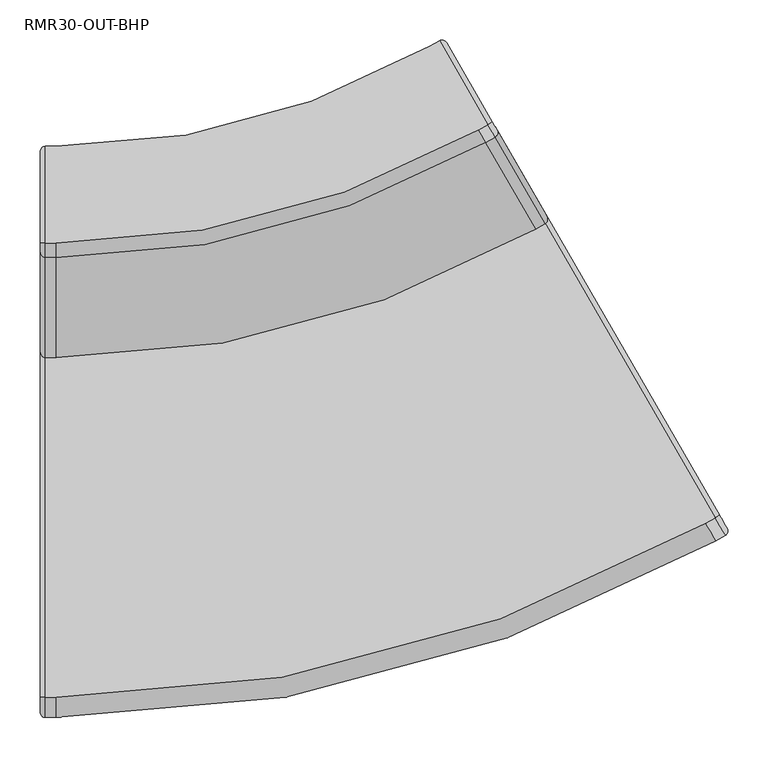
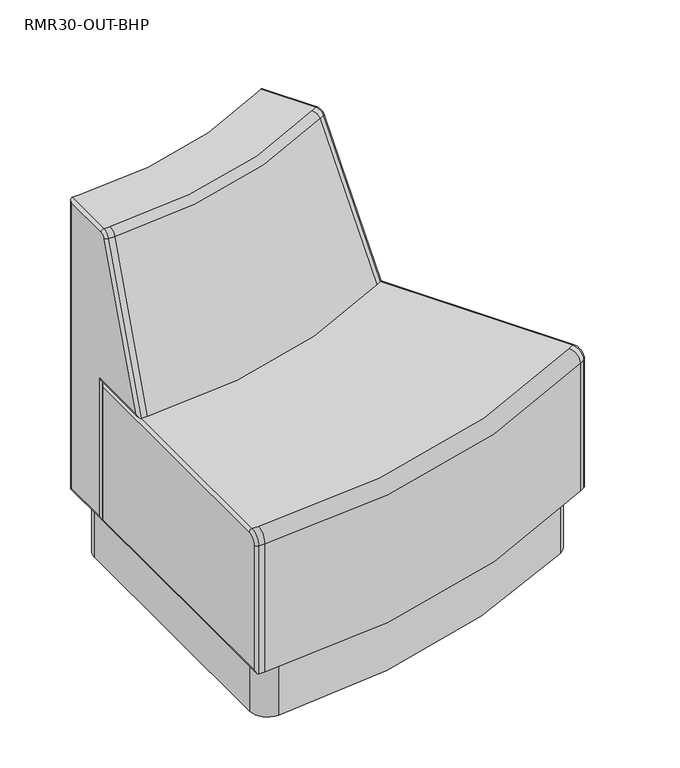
"""IFC4 building model written with IfcOpenShell, lengths in millimetres: furniture geometry, Stance_HC-Rosetta-30_Curve_Outside_Plinth_Base : RMR30-OUT-BHP."""

from ifc_helpers import new_model, si_unit, point, frame, frame_2d, origin, origin_with_axes, place, context, project, spatial, polyline, circle_curve, ellipse_curve, trimmed, segment, composite_curve, outline, extrude, source, transform, mapped, element, save
from ifc_brep_helpers import plane_surface, cylinder_surface, revolved_surface, advanced_brep


def rmr30_out_bhp_222f223d(model_context):
    return source(origin(), model_context, "Body", "SolidModel", [
        extrude(outline(composite_curve([segment(trimmed(circle_curve(frame_2d((480.3004625, 53.5261901)), 39.6875), [point((461.850962, 88.6646816))], [point((514.6708457, 73.3699401))], False, "CARTESIAN"), True, "CONTINUOUS"), segment(polyline([(514.6708457, 73.3699401), (810.5072872, -439.0338073)]), True, "CONTINUOUS"), segment(trimmed(circle_curve(frame_2d((776.136904, -458.8775573)), 39.6875), [point((810.5072872, -439.0338073))], [point((795.1116432, -493.735224))], False, "CARTESIAN"), True, "CONTINUOUS"), segment(trimmed(circle_curve(frame_2d((20.225, 929.7752664)), 1620.7502664), [point((795.1116432, -493.735224))], [point((60.9087272, -690.4643024))], False, "CARTESIAN"), True, "CONTINUOUS"), segment(trimmed(circle_curve(frame_2d((59.9125, -650.7893079)), 39.6875), [point((60.9087272, -690.4643024))], [point((20.225, -650.7893079))], False, "CARTESIAN"), True, "CONTINUOUS"), segment(polyline([(20.225, -650.7893079), (20.225, -59.116425)]), True, "CONTINUOUS"), segment(trimmed(circle_curve(frame_2d((59.9125, -59.116425)), 39.6875), [point((20.225, -59.116425))], [point((58.3209903, -19.4608484))], False, "CARTESIAN"), True, "CONTINUOUS"), segment(trimmed(circle_curve(frame_2d((20.225, 929.7752664)), 950.0002664), [point((58.3209903, -19.4608484))], [point((461.850962, 88.6646816))], True, "CARTESIAN"), True, "CONTINUOUS")], self_intersect=False)), frame((0.0, 0.0, 6.3627), z_axis=(0.0, 0.0, 1.0), x_axis=(1.0, 0.0, 0.0)), (0.0, 0.0, 1.0), 128.51892),
        advanced_brep(
        [(545.4376332, 20.0803009, 457.2), (20.225, -120.65, 457.2), (6.35, -120.65, 457.2), (6.35, -685.7999758, 457.2), (20.225, -685.7999758, 457.2), (828.0126211, -469.3539351, 457.2), (840.0287236, -462.4164351, 457.2), (557.4537357, 27.0178009, 457.2), (545.4376332, 20.0803009, 134.88162), (20.225, -120.65, 134.88162), (557.4537357, 27.0178009, 134.88162), (852.7287236, -484.4134803, 134.88162), (840.7126211, -491.3509803, 134.88162), (20.225, -711.1999758, 134.88162), (6.35, -711.1999758, 134.88162), (6.35, -120.65, 134.88162), (840.7126211, -491.3509803, 431.8), (20.225, -711.1999758, 431.8), (6.35, -711.1999758, 431.8), (0.0, -704.8499758, 431.8), (0.0, -704.8499758, 141.23162), (0.0, -685.7999758, 450.85), (0.0, -127.0, 450.85), (0.0, -127.0, 141.23162), (855.0529849, -475.739219, 431.8), (845.5279849, -459.2414351, 450.85), (852.7287236, -484.4134803, 431.8), (855.0529849, -475.739219, 141.23162), (566.127997, 24.6935396, 141.23162), (566.127997, 24.6935396, 450.85)],
        [
            (0, 1, circle_curve(frame((20.225, 929.7752664, 457.2), z_axis=(0.0, 0.0, -1.0), x_axis=(0.0, -1.0, 0.0)), 1050.4252664)),
            (1, 2),
            (2, 3),
            (3, 4),
            (4, 5, circle_curve(frame((20.225, 929.7752664, 457.2), z_axis=(0.0, 0.0, 1.0), x_axis=(0.0, -1.0, 0.0)), 1615.5752422)),
            (5, 6),
            (6, 7),
            (7, 0),
            (0, 8),
            (8, 9, circle_curve(frame((20.225, 929.7752664, 134.88162), z_axis=(0.0, 0.0, -1.0), x_axis=(0.0, -1.0, 0.0)), 1050.4252664)),
            (9, 1),
            (8, 10),
            (10, 11),
            (11, 12),
            (12, 13, circle_curve(frame((20.225, 929.7752664, 134.88162), z_axis=(0.0, 0.0, -1.0), x_axis=(0.0, -1.0, 0.0)), 1640.9752422)),
            (13, 14),
            (14, 15),
            (15, 9),
            (12, 16),
            (16, 17, circle_curve(frame((20.225, 929.7752664, 431.8), z_axis=(0.0, 0.0, -1.0), x_axis=(0.0, -1.0, 0.0)), 1640.9752422)),
            (17, 13),
            (4, 17, circle_curve(frame((20.225, -685.7999758, 431.8), z_axis=(1.0, 0.0, 0.0), x_axis=(0.0, 1.0, 0.0)), 25.4)),
            (16, 5, circle_curve(frame((828.0126211, -469.3539351, 431.8), z_axis=(-0.8660254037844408, -0.49999999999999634, 0.0), x_axis=(-0.49999999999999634, 0.8660254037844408, 0.0)), 25.4)),
            (17, 18),
            (18, 14),
            (18, 19, circle_curve(frame((6.35, -704.8499758, 431.8), z_axis=(0.0, 0.0, -1.0), x_axis=(0.0, -1.0, 0.0)), 6.35)),
            (19, 20),
            (20, 14, ellipse_curve(frame((6.35, -704.8499758, 141.23162), z_axis=(0.0, -0.7071067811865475, 0.7071067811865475), x_axis=(0.0, -0.7071067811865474, -0.7071067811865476)), 8.9802561, 6.35)),
            (3, 18, circle_curve(frame((6.35, -685.7999758, 431.8), z_axis=(1.0, 0.0, 0.0), x_axis=(0.0, -1.0, 0.0)), 25.4)),
            (3, 21, circle_curve(frame((6.35, -685.7999758, 450.85), z_axis=(0.0, -1.0, 0.0), x_axis=(0.0, 0.0, 1.0)), 6.35)),
            (21, 19, circle_curve(frame((0.0, -685.7999758, 431.8), z_axis=(1.0, 0.0, 0.0), x_axis=(0.0, -1.0, 0.0)), 19.05)),
            (2, 22, ellipse_curve(frame((6.35, -127.0, 450.85), z_axis=(0.0, -0.7071067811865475, 0.7071067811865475), x_axis=(0.0, -0.7071067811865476, -0.7071067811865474)), 8.9802561, 6.35)),
            (22, 21),
            (15, 2),
            (15, 23, ellipse_curve(frame((6.35, -127.0, 141.23162), z_axis=(0.0, 0.7071067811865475, 0.7071067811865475), x_axis=(0.0, -0.7071067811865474, 0.7071067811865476)), 8.9802561, 6.35)),
            (23, 22),
            (20, 23),
            (24, 25, circle_curve(frame((845.5279849, -459.2414351, 431.8), z_axis=(-0.8660254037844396, -0.49999999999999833, 0.0), x_axis=(0.0, 0.0, 1.0)), 19.05)),
            (25, 6, circle_curve(frame((840.0287236, -462.4164351, 450.85), z_axis=(0.4999999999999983, -0.8660254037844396, 0.0), x_axis=(0.0, 0.0, 1.0)), 6.35)),
            (6, 26, circle_curve(frame((840.0287236, -462.4164351, 431.8), z_axis=(0.8660254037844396, 0.49999999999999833, 0.0), x_axis=(0.0, 0.0, 1.0)), 25.4)),
            (26, 24, circle_curve(frame((849.5537236, -478.914219, 431.8), z_axis=(0.0, 0.0, 1.0), x_axis=(0.4999999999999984, -0.8660254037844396, 0.0)), 6.35)),
            (16, 26),
            (26, 11),
            (11, 27, ellipse_curve(frame((849.5537236, -478.914219, 141.23162), z_axis=(0.3535533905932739, -0.6123724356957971, 0.707106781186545), x_axis=(-0.3535533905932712, 0.6123724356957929, 0.7071067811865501)), 8.9802561, 6.35)),
            (27, 24),
            (10, 28, ellipse_curve(frame((560.6287357, 21.5185396, 141.23162), z_axis=(0.3535533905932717, -0.6123724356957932, -0.7071067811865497), x_axis=(0.3535533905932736, -0.6123724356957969, 0.7071067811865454)), 8.9802561, 6.35)),
            (28, 27),
            (10, 7),
            (7, 29, ellipse_curve(frame((560.6287357, 21.5185396, 450.85), z_axis=(-0.3535533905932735, 0.6123724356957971, -0.7071067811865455), x_axis=(0.3535533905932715, -0.6123724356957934, -0.7071067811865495)), 8.9802561, 6.35)),
            (29, 28),
            (25, 29),
        ],
        [
            plane_surface(frame((20.225, 929.7752664, 457.2), z_axis=(0.0, 0.0, 1.0), x_axis=(0.0, -1.0, 0.0))),
            revolved_surface(polyline([(20.225, -120.65000000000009, 457.2), (20.225, -120.65000000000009, 134.88162)]), (20.225, 929.7752664, 618.9648354), (0.0, 0.0, 1.0)),
            plane_surface(frame((20.225, 929.7752664, 134.88162), z_axis=(0.0, 0.0, -1.0), x_axis=(0.0, -1.0, 0.0))),
            cylinder_surface(frame((20.225, 929.7752664, 618.9648354), z_axis=(0.0, 0.0, 1.0), x_axis=(0.0, -1.0, 0.0)), 1640.9752422),
            revolved_surface(trimmed(ellipse_curve(frame((20.225, -685.7999758, 431.8), z_axis=(-1.0, 0.0, 0.0), x_axis=(0.0, 1.0, 0.0)), 25.4, 25.4), [point((20.225, -711.1999758, 431.8))], [point((20.225, -685.7999758, 457.2))], True, "CARTESIAN"), (20.225, 929.7752664, 618.9648354), (0.0, 0.0, 1.0)),
            plane_surface(frame((20.225, -711.1999758, 134.88162), z_axis=(0.0, -1.0, 0.0), x_axis=(0.0, 0.0, 1.0))),
            cylinder_surface(frame((6.35, -704.8499758, 134.88162), z_axis=(0.0, 0.0, -1.0), x_axis=(0.0, -1.0, 0.0)), 6.35),
            cylinder_surface(frame((0.0, -685.7999758, 431.8), z_axis=(-1.0, 0.0, 0.0), x_axis=(0.0, -1.0, 0.0)), 25.4),
            revolved_surface(trimmed(ellipse_curve(frame((6.35, -704.8499758, 431.8), z_axis=(0.0, 0.0, -1.0), x_axis=(0.0, -1.0, 0.0)), 6.35, 6.35), [point((6.35, -711.1999758, 431.8))], [point((0.0, -704.8499758, 431.8))], True, "CARTESIAN"), (0.0, -685.7999758, 431.8), (-1.0, 0.0, 0.0)),
            cylinder_surface(frame((6.35, -685.7999758, 450.85), z_axis=(0.0, -1.0, 0.0), x_axis=(0.0, 0.0, 1.0)), 6.35),
            plane_surface(frame((20.225, -120.65, 457.2), z_axis=(0.0, 1.0, 0.0), x_axis=(0.0, 0.0, -1.0))),
            cylinder_surface(frame((6.35, -127.0, 457.2), z_axis=(0.0, 0.0, 1.0), x_axis=(0.0, 1.0, 0.0)), 6.35),
            cylinder_surface(frame((6.35, -120.65, 141.23162), z_axis=(0.0, 1.0, 0.0), x_axis=(0.0, 0.0, -1.0)), 6.35),
            plane_surface(frame((0.0, -127.0, 141.23162), z_axis=(-1.0, 0.0, 0.0), x_axis=(0.0, -1.0, 0.0))),
            revolved_surface(trimmed(ellipse_curve(frame((840.0287236, -462.4164351, 450.85), z_axis=(-0.4999999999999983, 0.8660254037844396, 0.0), x_axis=(0.0, 0.0, 1.0)), 6.35, 6.35), [point((840.0287236, -462.4164351, 457.2))], [point((845.5279849, -459.2414351, 450.85))], True, "CARTESIAN"), (827.9990894, -469.3617476, 431.8), (0.8660254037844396, 0.49999999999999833, 0.0)),
            cylinder_surface(frame((827.9990894, -469.3617476, 431.8), z_axis=(0.8660254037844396, 0.49999999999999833, 0.0), x_axis=(0.0, 0.0, 1.0)), 25.4),
            cylinder_surface(frame((849.5537236, -478.914219, 431.8), z_axis=(0.0, 0.0, 1.0000000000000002), x_axis=(0.4999999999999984, -0.8660254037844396, 0.0)), 6.35),
            plane_surface(frame((840.7126211, -491.3509803, 431.8), z_axis=(0.4999999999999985, -0.8660254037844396, 0.0), x_axis=(0.0, 0.0, -1.0))),
            cylinder_surface(frame((852.7287236, -484.4134803, 141.23162), z_axis=(0.4999999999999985, -0.8660254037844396, 0.0), x_axis=(0.0, 0.0, -1.0)), 6.35),
            cylinder_surface(frame((560.6287357, 21.5185396, 134.88162), z_axis=(0.0, 0.0, -1.0), x_axis=(-0.4999999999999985, 0.8660254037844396, 0.0)), 6.35),
            plane_surface(frame((545.4376332, 20.0803009, 134.88162), z_axis=(-0.49999999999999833, 0.8660254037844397, 0.0), x_axis=(0.0, 0.0, 1.0))),
            cylinder_surface(frame((557.4537357, 27.0178009, 450.85), z_axis=(-0.4999999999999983, 0.8660254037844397, 0.0), x_axis=(0.0, 0.0, 1.0)), 6.35),
            plane_surface(frame((566.127997, 24.6935396, 450.85), z_axis=(0.8660254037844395, 0.4999999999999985, 0.0), x_axis=(0.4999999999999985, -0.8660254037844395, 0.0))),
        ],
        [
            (0, [[1, 2, 3, 4, 5, 6, 7, 8]]),
            (1, [[-1, 9, 10, 11]]),
            (2, [[-10, 12, 13, 14, 15, 16, 17, 18]]),
            (3, [[-15, 19, 20, 21]]),
            (4, [[-5, 22, -20, 23]]),
            (5, [[-16, -21, 24, 25]]),
            (6, [[-25, 26, 27, 28]]),
            (7, [[-24, -22, -4, 29]]),
            (8, [[-26, -29, 30, 31]]),
            (9, [[-30, -3, 32, 33]]),
            (10, [[-2, -11, -18, 34]]),
            (11, [[-32, -34, 35, 36]]),
            (12, [[-28, 37, -35, -17]]),
            (13, [[-27, -31, -33, -36, -37]]),
            (14, [[38, 39, 40, 41]]),
            (15, [[-40, -6, -23, 42]]),
            (16, [[-41, 43, 44, 45]]),
            (17, [[-42, -19, -14, -43]]),
            (18, [[-44, -13, 46, 47]]),
            (19, [[-46, 48, 49, 50]]),
            (20, [[-12, -9, -8, -48]]),
            (21, [[-39, 51, -49, -7]]),
            (22, [[-38, -45, -47, -50, -51]]),
        ],
    ),
        advanced_brep(
        [(545.4376332, 20.0803009, 134.88162), (20.225, -120.65, 134.88162), (6.35, -120.65, 134.88162), (6.35, 0.0, 134.88162), (20.225, 0.0, 134.88162), (485.1126332, 124.5662659, 134.88162), (497.1287357, 131.5037659, 134.88162), (557.4537357, 27.0178009, 134.88162), (545.4376332, 20.0803009, 457.2), (20.225, -120.65, 457.2), (557.4537357, 27.0178009, 457.2), (628.7003368, -96.384932, 457.2), (616.6842343, -103.322432, 457.2), (20.225, -263.1432022, 457.2), (6.35, -263.1432022, 457.2), (6.35, -120.65, 457.2), (554.2514221, 4.8143708, 800.2654837), (20.225, -138.2775777, 800.2654837), (545.3008498, 20.3172166, 812.8), (20.225, -120.3764333, 812.8), (557.3169523, 27.2547166, 812.8), (497.1287357, 131.5037659, 812.8), (485.1126332, 124.5662659, 812.8), (20.225, 0.0, 812.8), (6.35, 0.0, 812.8), (6.35, -120.3764333, 812.8), (0.0, -6.35, 141.23162), (0.0, -6.35, 806.45), (0.0, -114.3, 141.23162), (0.0, -114.3, 463.55), (0.0, -254.0744624, 463.55), (6.35, -138.2775777, 800.2654837), (0.0, -132.3105296, 798.0936558), (0.0, -120.3764333, 806.45), (568.7832618, 20.0944861, 798.0936558), (562.8162136, 30.4297166, 806.45), (566.2675245, 11.7518708, 800.2654837), (629.6652282, -85.356173, 463.55), (559.777997, 35.6920622, 463.55), (559.777997, 35.6920622, 141.23162), (505.802997, 129.1795046, 141.23162), (505.802997, 129.1795046, 806.45)],
        [
            (0, 1, circle_curve(frame((20.225, 929.7752664, 134.88162), z_axis=(0.0, 0.0, -1.0), x_axis=(0.0, -1.0, 0.0)), 1050.4252664)),
            (1, 2),
            (2, 3),
            (3, 4),
            (4, 5, circle_curve(frame((20.225, 929.7752664, 134.88162), z_axis=(0.0, 0.0, 1.0), x_axis=(0.0, -1.0, 0.0)), 929.7752664)),
            (5, 6),
            (6, 7),
            (7, 0),
            (0, 8),
            (8, 9, circle_curve(frame((20.225, 929.7752664, 457.2), z_axis=(0.0, 0.0, -1.0), x_axis=(0.0, -1.0, 0.0)), 1050.4252664)),
            (9, 1),
            (8, 10),
            (10, 11),
            (11, 12),
            (12, 13, circle_curve(frame((20.225, 929.7752664, 457.2), z_axis=(0.0, 0.0, -1.0), x_axis=(0.0, -1.0, 0.0)), 1192.9184686)),
            (13, 14),
            (14, 15),
            (15, 9),
            (12, 16),
            (16, 17, circle_curve(frame((20.225, 929.7752664, 800.2654837), z_axis=(0.0, 0.0, -1.0), x_axis=(0.0, -1.0, 0.0)), 1068.0528441)),
            (17, 13),
            (16, 18, circle_curve(frame((545.3008498, 20.3172166, 793.75), z_axis=(-0.8660254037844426, -0.4999999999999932, 0.0), x_axis=(-0.4999999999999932, 0.8660254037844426, 0.0)), 19.05)),
            (18, 19, circle_curve(frame((20.225, 929.7752664, 812.8), z_axis=(0.0, 0.0, -1.0), x_axis=(0.0, -1.0, 0.0)), 1050.1516997)),
            (19, 17, circle_curve(frame((20.225, -120.3764333, 793.75), z_axis=(1.0, 0.0, 0.0), x_axis=(0.0, 1.0, 0.0)), 19.05)),
            (18, 20),
            (20, 21),
            (21, 22),
            (22, 23, circle_curve(frame((20.225, 929.7752664, 812.8), z_axis=(0.0, 0.0, -1.0), x_axis=(0.0, -1.0, 0.0)), 929.7752664)),
            (23, 24),
            (24, 25),
            (25, 19),
            (4, 23),
            (22, 5),
            (3, 24),
            (3, 26, ellipse_curve(frame((6.35, -6.35, 141.23162), z_axis=(0.0, 0.707106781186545, 0.70710678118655), x_axis=(0.0, -0.70710678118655, 0.707106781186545)), 8.9802561, 6.35)),
            (26, 27),
            (27, 24, ellipse_curve(frame((6.35, -6.35, 806.45), z_axis=(0.0, 0.70710678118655, -0.7071067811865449), x_axis=(0.0, 0.7071067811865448, 0.7071067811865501)), 8.9802561, 6.35)),
            (2, 28, ellipse_curve(frame((6.35, -114.3, 141.23162), z_axis=(0.0, 0.70710678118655, -0.7071067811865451), x_axis=(0.0, 0.7071067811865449, 0.7071067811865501)), 8.9802561, 6.35)),
            (28, 26),
            (15, 2),
            (15, 29, ellipse_curve(frame((6.35, -114.3, 463.55), z_axis=(0.0, 0.70710678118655, -0.7071067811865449), x_axis=(0.0, -0.7071067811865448, -0.7071067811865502)), 8.9802561, 6.35)),
            (29, 28),
            (14, 30, ellipse_curve(frame((6.35, -254.0744624, 463.55), z_axis=(0.0, 0.5735764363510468, -0.8191520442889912), x_axis=(0.0, 0.8191520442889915, 0.5735764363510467)), 11.0708872, 6.35)),
            (30, 29),
            (17, 31),
            (31, 14),
            (31, 32, circle_curve(frame((6.35, -132.3105296, 798.0936558), z_axis=(0.0, -0.34202014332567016, -0.939692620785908), x_axis=(0.0, -0.939692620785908, 0.34202014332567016)), 6.35)),
            (32, 30),
            (25, 31, circle_curve(frame((6.35, -120.3764333, 793.75), z_axis=(1.0, 0.0, 0.0), x_axis=(0.0, -0.9396926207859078, 0.34202014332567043)), 19.05)),
            (25, 33, circle_curve(frame((6.35, -120.3764333, 806.45), z_axis=(0.0, -1.0, 0.0), x_axis=(0.0, 0.0, 1.0)), 6.35)),
            (33, 32, circle_curve(frame((0.0, -120.3764333, 793.75), z_axis=(1.0, 0.0, 0.0), x_axis=(0.0, -0.9396926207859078, 0.34202014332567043)), 12.7)),
            (27, 33),
            (34, 35, circle_curve(frame((562.8162136, 30.4297166, 793.75), z_axis=(-0.8660254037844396, -0.49999999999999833, 0.0), x_axis=(0.0, 0.0, 1.0)), 12.7)),
            (35, 20, circle_curve(frame((557.3169523, 27.2547166, 806.45), z_axis=(0.4999999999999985, -0.8660254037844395, 0.0), x_axis=(0.0, 0.0, 1.0)), 6.35)),
            (20, 36, circle_curve(frame((557.3169523, 27.2547166, 793.75), z_axis=(0.8660254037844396, 0.49999999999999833, 0.0), x_axis=(0.0, 0.0, 1.0)), 19.05)),
            (36, 34, circle_curve(frame((563.2840005, 16.9194861, 798.0936558), z_axis=(-0.1710100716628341, 0.2961981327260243, 0.9396926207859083), x_axis=(0.46984631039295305, -0.8137976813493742, 0.342020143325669)), 6.35)),
            (16, 36),
            (36, 11),
            (11, 37, ellipse_curve(frame((624.1659668, -88.531173, 463.55), z_axis=(0.2867882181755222, -0.49673176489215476, 0.8191520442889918), x_axis=(-0.4095760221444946, 0.7094064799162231, 0.573576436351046)), 11.0708872, 6.35)),
            (37, 34),
            (10, 38, ellipse_curve(frame((554.2787357, 32.5170622, 463.55), z_axis=(0.35355339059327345, -0.6123724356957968, 0.7071067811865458), x_axis=(0.35355339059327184, -0.6123724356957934, -0.7071067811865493)), 8.9802561, 6.35)),
            (38, 37),
            (10, 7),
            (7, 39, ellipse_curve(frame((554.2787357, 32.5170622, 141.23162), z_axis=(0.3535533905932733, -0.6123724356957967, 0.7071067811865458), x_axis=(-0.3535533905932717, 0.6123724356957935, 0.7071067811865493)), 8.9802561, 6.35)),
            (39, 38),
            (6, 40, ellipse_curve(frame((500.3037357, 126.0045046, 141.23162), z_axis=(0.35355339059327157, -0.6123724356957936, -0.7071067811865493), x_axis=(0.35355339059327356, -0.6123724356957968, 0.7071067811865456)), 8.9802561, 6.35)),
            (40, 39),
            (6, 21),
            (21, 41, ellipse_curve(frame((500.3037357, 126.0045046, 806.45), z_axis=(-0.35355339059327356, 0.6123724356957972, -0.7071067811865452), x_axis=(0.35355339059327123, -0.6123724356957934, -0.7071067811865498)), 8.9802561, 6.35)),
            (41, 40),
            (35, 41),
        ],
        [
            plane_surface(frame((20.225, 929.7752664, 134.88162), z_axis=(0.0, 0.0, -1.0), x_axis=(0.0, -1.0, 0.0))),
            cylinder_surface(frame((20.225, 929.7752664, 618.9648354), z_axis=(0.0, 0.0, 1.0), x_axis=(0.0, -1.0, 0.0)), 1050.4252664),
            plane_surface(frame((20.225, 929.7752664, 457.2), z_axis=(0.0, 0.0, -1.0), x_axis=(0.0, -1.0, 0.0))),
            revolved_surface(polyline([(20.225, -263.1432022, 457.2), (20.225, -138.2775777, 800.2654837)]), (20.225, 929.7752664, 618.9648354), (0.0, 0.0, 1.0)),
            revolved_surface(trimmed(ellipse_curve(frame((20.225, -120.3764333, 793.75), z_axis=(-1.0, 0.0, 0.0), x_axis=(0.0, 1.0, 0.0)), 19.05, 19.05), [point((20.225, -138.2775777, 800.2654837))], [point((20.225, -120.3764333, 812.8))], True, "CARTESIAN"), (20.225, 929.7752664, 618.9648354), (0.0, 0.0, 1.0)),
            plane_surface(frame((20.225, 929.7752664, 812.8), z_axis=(0.0, 0.0, 1.0), x_axis=(0.0, -1.0, 0.0))),
            revolved_surface(polyline([(20.225, 0.0, 812.8), (20.225, 0.0, 134.88162)]), (20.225, 929.7752664, 618.9648354), (0.0, 0.0, 1.0)),
            plane_surface(frame((20.225, 0.0, 812.8), z_axis=(0.0, 1.0, 0.0), x_axis=(0.0, 0.0, -1.0))),
            cylinder_surface(frame((6.35, -6.35, 812.8), z_axis=(0.0, 0.0, 1.0), x_axis=(0.0, 1.0, 0.0)), 6.35),
            cylinder_surface(frame((6.35, 0.0, 141.23162), z_axis=(0.0, 1.0, 0.0), x_axis=(0.0, 0.0, -1.0)), 6.35),
            plane_surface(frame((20.225, -120.65, 134.88162), z_axis=(0.0, -1.0, 0.0), x_axis=(0.0, 0.0, 1.0))),
            cylinder_surface(frame((6.35, -114.3, 134.88162), z_axis=(0.0, 0.0, -1.0), x_axis=(0.0, -1.0, 0.0)), 6.35),
            cylinder_surface(frame((6.35, -120.65, 463.55), z_axis=(0.0, 1.0, 0.0), x_axis=(0.0, 0.0, -1.0)), 6.35),
            plane_surface(frame((20.225, -263.1432022, 457.2), z_axis=(0.0, -0.939692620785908, 0.34202014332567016), x_axis=(0.0, 0.34202014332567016, 0.939692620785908))),
            cylinder_surface(frame((6.35, -257.1761541, 455.0281721), z_axis=(0.0, -0.34202014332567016, -0.939692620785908), x_axis=(0.0, -0.939692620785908, 0.34202014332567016)), 6.35),
            cylinder_surface(frame((0.0, -120.3764333, 793.75), z_axis=(-1.0, 0.0, 0.0), x_axis=(0.0, -0.9396926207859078, 0.34202014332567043)), 19.05),
            revolved_surface(trimmed(ellipse_curve(frame((6.35, -132.3105296, 798.0936558), z_axis=(0.0, -0.3420201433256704, -0.9396926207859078), x_axis=(0.0, -0.9396926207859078, 0.3420201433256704)), 6.35, 6.35), [point((6.35, -138.2775777, 800.2654837))], [point((0.0, -132.3105296, 798.0936558))], True, "CARTESIAN"), (0.0, -120.3764333, 793.75), (-1.0, 0.0, 0.0)),
            cylinder_surface(frame((6.35, -120.3764333, 806.45), z_axis=(0.0, -1.0, 0.0), x_axis=(0.0, 0.0, 1.0)), 6.35),
            plane_surface(frame((0.0, -120.3764333, 806.45), z_axis=(-1.0, 0.0, 0.0), x_axis=(0.0, 1.0, 0.0))),
            revolved_surface(trimmed(ellipse_curve(frame((557.3169523, 27.2547166, 806.45), z_axis=(-0.4999999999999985, 0.8660254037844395, 0.0), x_axis=(0.0, 0.0, 1.0)), 6.35, 6.35), [point((557.3169523, 27.2547166, 812.8))], [point((562.8162136, 30.4297166, 806.45))], True, "CARTESIAN"), (545.2873182, 20.3094041, 793.75), (0.8660254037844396, 0.49999999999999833, 0.0)),
            cylinder_surface(frame((545.2873182, 20.3094041, 793.75), z_axis=(0.8660254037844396, 0.49999999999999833, 0.0), x_axis=(0.0, 0.0, 1.0)), 19.05),
            cylinder_surface(frame((563.2840005, 16.9194861, 798.0936558), z_axis=(-0.171010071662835, 0.2961981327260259, 0.9396926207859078), x_axis=(0.4698463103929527, -0.8137976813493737, 0.34202014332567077)), 6.35),
            plane_surface(frame((554.2514221, 4.8143708, 800.2654837), z_axis=(0.46984631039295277, -0.813797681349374, 0.3420201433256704), x_axis=(0.17101007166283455, -0.2961981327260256, -0.9396926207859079))),
            cylinder_surface(frame((628.7003368, -96.384932, 463.55), z_axis=(0.4999999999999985, -0.8660254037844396, 0.0), x_axis=(0.0, 0.0, -1.0)), 6.35),
            cylinder_surface(frame((554.2787357, 32.5170622, 457.2), z_axis=(0.0, 0.0, 1.0), x_axis=(0.4999999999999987, -0.8660254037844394, 0.0)), 6.35),
            plane_surface(frame((545.4376332, 20.0803009, 457.2), z_axis=(0.49999999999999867, -0.8660254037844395, 0.0), x_axis=(0.0, 0.0, -1.0))),
            cylinder_surface(frame((557.4537357, 27.0178009, 141.23162), z_axis=(0.4999999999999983, -0.8660254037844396, 0.0), x_axis=(0.0, 0.0, -1.0)), 6.35),
            cylinder_surface(frame((500.3037357, 126.0045046, 134.88162), z_axis=(0.0, 0.0, -1.0000000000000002), x_axis=(-0.49999999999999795, 0.8660254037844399, 0.0)), 6.35),
            plane_surface(frame((485.1126332, 124.5662659, 134.88162), z_axis=(-0.49999999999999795, 0.8660254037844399, 0.0), x_axis=(0.0, 0.0, 1.0))),
            cylinder_surface(frame((497.1287357, 131.5037659, 806.45), z_axis=(-0.4999999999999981, 0.8660254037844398, 0.0), x_axis=(0.0, 0.0, 1.0)), 6.35),
            plane_surface(frame((505.802997, 129.1795046, 806.45), z_axis=(0.8660254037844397, 0.49999999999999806, 0.0), x_axis=(0.49999999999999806, -0.8660254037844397, 0.0))),
        ],
        [
            (0, [[1, 2, 3, 4, 5, 6, 7, 8]]),
            (1, [[-1, 9, 10, 11]]),
            (2, [[-10, 12, 13, 14, 15, 16, 17, 18]]),
            (3, [[-15, 19, 20, 21]]),
            (4, [[-20, 22, 23, 24]]),
            (5, [[-23, 25, 26, 27, 28, 29, 30, 31]]),
            (6, [[-5, 32, -28, 33]]),
            (7, [[-29, -32, -4, 34]]),
            (8, [[-34, 35, 36, 37]]),
            (9, [[-35, -3, 38, 39]]),
            (10, [[-2, -11, -18, 40]]),
            (11, [[-38, -40, 41, 42]]),
            (12, [[-41, -17, 43, 44]]),
            (13, [[-16, -21, 45, 46]]),
            (14, [[-43, -46, 47, 48]]),
            (15, [[-45, -24, -31, 49]]),
            (16, [[-47, -49, 50, 51]]),
            (17, [[-37, 52, -50, -30]]),
            (18, [[-36, -39, -42, -44, -48, -51, -52]]),
            (19, [[53, 54, 55, 56]]),
            (20, [[-55, -25, -22, 57]]),
            (21, [[-56, 58, 59, 60]]),
            (22, [[-57, -19, -14, -58]]),
            (23, [[-59, -13, 61, 62]]),
            (24, [[-61, 63, 64, 65]]),
            (25, [[-12, -9, -8, -63]]),
            (26, [[-64, -7, 66, 67]]),
            (27, [[-66, 68, 69, 70]]),
            (28, [[-6, -33, -27, -68]]),
            (29, [[-54, 71, -69, -26]]),
            (30, [[-53, -60, -62, -65, -67, -70, -71]]),
        ],
    ),
        extrude(outline(composite_curve([segment(trimmed(circle_curve(frame_2d((53.8094299, -53.4366308)), 11.90625), [point((53.8094299, -65.3428808))], [point((53.8094299, -41.5303808))], False, "CARTESIAN"), True, "CONTINUOUS"), segment(trimmed(circle_curve(frame_2d((53.8094299, -53.4366308)), 11.90625), [point((53.8094299, -41.5303808))], [point((53.8094299, -65.3428808))], False, "CARTESIAN"), True, "CONTINUOUS")], self_intersect=False)), origin_with_axes(), (0.0, 0.0, 1.0), 6.3627),
        extrude(outline(composite_curve([segment(trimmed(circle_curve(frame_2d((53.8094299, -657.763345)), 11.90625), [point((53.8094299, -669.669595))], [point((53.8094299, -645.857095))], False, "CARTESIAN"), True, "CONTINUOUS"), segment(trimmed(circle_curve(frame_2d((53.8094299, -657.763345)), 11.90625), [point((53.8094299, -645.857095))], [point((53.8094299, -669.669595))], False, "CARTESIAN"), True, "CONTINUOUS")], self_intersect=False)), origin_with_axes(), (0.0, 0.0, 1.0), 6.3627),
        extrude(outline(composite_curve([segment(trimmed(circle_curve(frame_2d((482.7459791, 61.4965712)), 11.90625), [point((482.7459791, 49.5903212))], [point((482.7459791, 73.4028212))], False, "CARTESIAN"), True, "CONTINUOUS"), segment(trimmed(circle_curve(frame_2d((482.7459791, 61.4965712)), 11.90625), [point((482.7459791, 73.4028212))], [point((482.7459791, 49.5903212))], False, "CARTESIAN"), True, "CONTINUOUS")], self_intersect=False)), origin_with_axes(), (0.0, 0.0, 1.0), 6.3627),
        extrude(outline(composite_curve([segment(trimmed(circle_curve(frame_2d((784.9093362, -461.8657155)), 11.90625), [point((784.9093362, -473.7719655))], [point((784.9093362, -449.9594655))], False, "CARTESIAN"), True, "CONTINUOUS"), segment(trimmed(circle_curve(frame_2d((784.9093362, -461.8657155)), 11.90625), [point((784.9093362, -449.9594655))], [point((784.9093362, -473.7719655))], False, "CARTESIAN"), True, "CONTINUOUS")], self_intersect=False)), origin_with_axes(), (0.0, 0.0, 1.0), 6.3627),
    ])


if __name__ == "__main__":
    model = new_model("IFC4")
    model_context = context("Model", 3, world=origin())
    ifc_project = project(units=[si_unit("LENGTHUNIT", "METRE", prefix="MILLI")], contexts=[model_context])
    site = spatial("IfcSite", under=ifc_project)
    building = spatial("IfcBuilding", under=site)
    placement = place(None, origin())
    rmr30_out_bhp_shape = rmr30_out_bhp_222f223d(model_context)
    element("IfcFurniture", 1, ObjectType="Stance_HC-Rosetta-30_Curve_Outside_Plinth_Base : RMR30-OUT-BHP", at=placement, inside=building, context=model_context, shape_type="MappedRepresentation", body=[
        mapped(rmr30_out_bhp_shape, transform((0.0, 0.0, 0.0), x_axis=(1.0, 0.0, 0.0), y_axis=(0.0, 1.0, 0.0), z_axis=(0.0, 0.0, 1.0))),
    ])
    save(model, "model.ifc")
